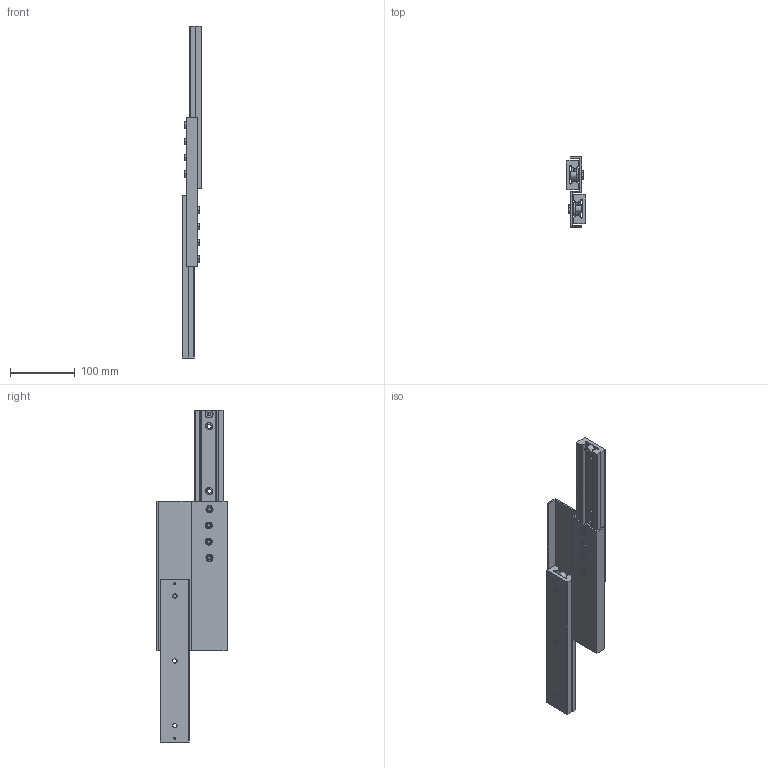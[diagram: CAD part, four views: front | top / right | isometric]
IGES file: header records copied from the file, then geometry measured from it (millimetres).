
Start section: SolidWorks IGES file using analytic representation for surfaces
Global section: file name: C:\Users\tsuch\OneDrive\デスクトップ\LSIM-DV(3D)\LSIM45DV.IGS; native system: SolidWorks 2019; preprocessor: SolidWorks 2019; author: tsuch; date: 200402.165520; units: millimetre
Bounding box: 30.2 x 108.2 x 512 mm (x, y, z)
Surface area: 168960.6 mm2 (no closed solid volume)
Topology: 0 solids, 0 shells, 544 faces, 8388 edges, 8388 vertices
Faces by surface type: revolution 306, bspline 238
